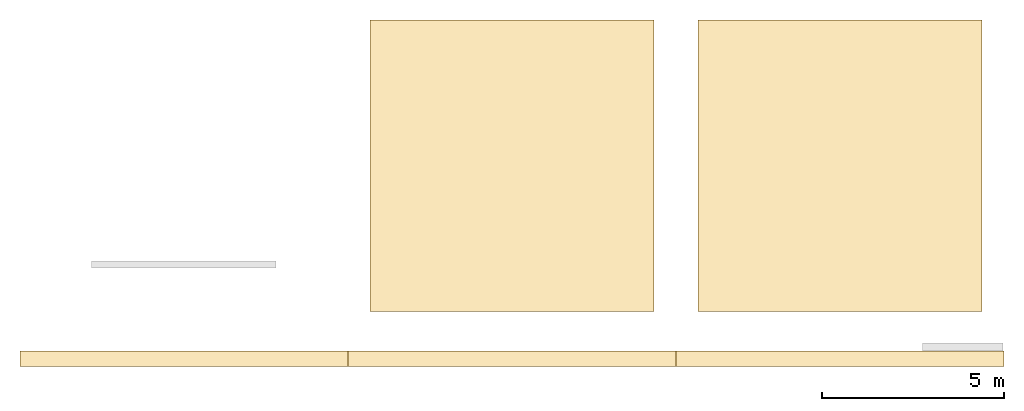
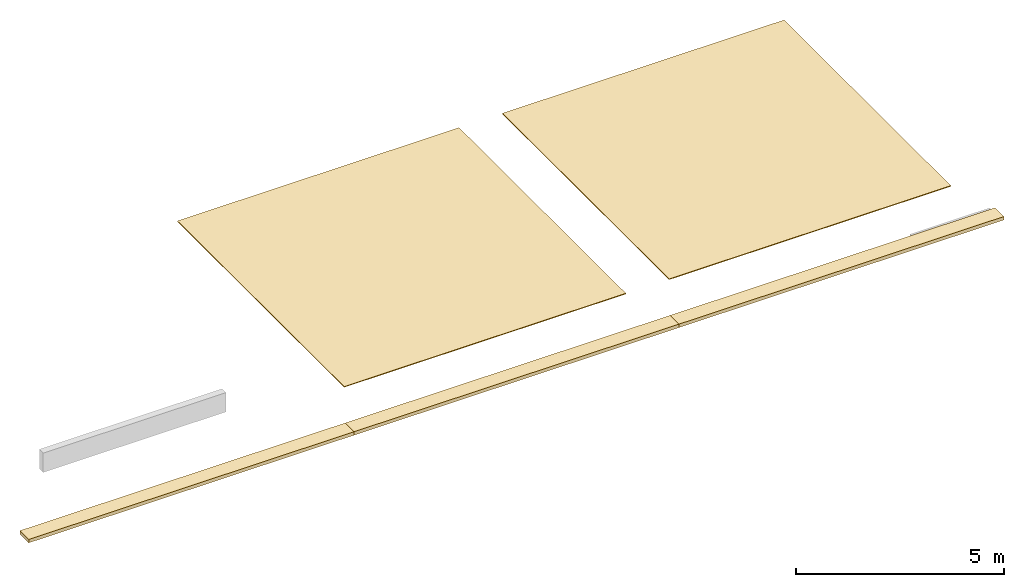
# One storey, part 2 of 2: 5 coverings.
"""IFC2X3 building model written with IfcOpenShell, lengths in millimetres."""

from ifc_helpers import new_model, entity, si_unit, converted_unit, derived_unit, direction, frame, frame_2d, origin_with_axes, place, context, subcontext, project, spatial, rectangle, extrude, faceted_brep, material, layer, layer_set, layer_usage, type_object, element, save


model = new_model("IFC2X3")

# Units and contexts
model_context = context("Model", 3, precision=0.01, world=frame((0.0, 4.29681676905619e-09, 0.0)), true_north=direction((4.01073788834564e-13, 1.0)))
plan_context = context("Plan", 3, precision=0.01, world=frame((0.0, 4.29681676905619e-09, 0.0)), true_north=direction((4.01073788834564e-13, 1.0)))
body_context = subcontext(model_context, "Body", "Model", "MODEL_VIEW")
ifc_project = project(units=[converted_unit("PLANEANGLEUNIT", "DEGREE", entity("IfcPositiveLengthMeasure", 0.0174532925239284), si_unit("PLANEANGLEUNIT", "RADIAN"), dimensions=[0, 0, 0, 0, 0, 0, 0]), si_unit("AREAUNIT", "SQUARE_METRE"), si_unit("LENGTHUNIT", "METRE", prefix="MILLI"), si_unit("MASSUNIT", "GRAM", prefix="KILO"), si_unit("POWERUNIT", "WATT"), si_unit("PRESSUREUNIT", "PASCAL", prefix="KILO"), si_unit("FORCEUNIT", "NEWTON", prefix="KILO"), si_unit("ELECTRICVOLTAGEUNIT", "VOLT"), si_unit("ELECTRICCURRENTUNIT", "AMPERE"), si_unit("THERMODYNAMICTEMPERATUREUNIT", "DEGREE_CELSIUS"), si_unit("TIMEUNIT", "SECOND"), si_unit("VOLUMEUNIT", "CUBIC_METRE"), derived_unit("LINEARVELOCITYUNIT", [(si_unit("LENGTHUNIT", "METRE"), 1), (si_unit("TIMEUNIT", "SECOND"), -1)]), derived_unit("VOLUMETRICFLOWRATEUNIT", [(si_unit("VOLUMEUNIT", "CUBIC_METRE"), 1), (si_unit("TIMEUNIT", "SECOND"), -1)]), derived_unit("THERMALTRANSMITTANCEUNIT", [(si_unit("POWERUNIT", "WATT"), 1), (si_unit("THERMODYNAMICTEMPERATUREUNIT", "KELVIN"), -1), (si_unit("AREAUNIT", "SQUARE_METRE"), -1)]), derived_unit("SOUNDPRESSUREUNIT", [(si_unit("PRESSUREUNIT", "PASCAL"), 1)])], contexts=[model_context, plan_context])

# Site, building, storey
site_placement = place(None, origin_with_axes())
site = spatial("IfcSite", under=ifc_project, at=site_placement, Name="ENGM", CompositionType="ELEMENT")
building_placement = place(site_placement, origin_with_axes())
building = spatial("IfcBuilding", under=site, at=building_placement, Name="TG", CompositionType="ELEMENT")
storey_placement = place(building_placement, frame((0.0, 0.0, 205200.0), z_axis=(0.0, 0.0, 1.0), x_axis=(1.0, 0.0, 0.0)))
storey = spatial("IfcBuildingStorey", under=building, at=storey_placement, Name="Nivå D + 1,2 m", CompositionType="ELEMENT", Elevation=205200.0)

# Coverings
covering_type_1 = type_object("IfcCoveringType", Name="Compound Ceiling:A255 - Eksisterende - akustisk direktmontert - 600 x 1200 mm", PredefinedType="CEILING")
covering_1_placement = place(storey_placement, origin_with_axes())
element("IfcCovering", 1, at=covering_1_placement, inside=storey, type_object=covering_type_1, Name="Compound Ceiling:A255 - Eksisterende - akustisk direktmontert - 600 x 1200 mm", ObjectType="Compound Ceiling:A255 - Eksisterende - akustisk direktmontert - 600 x 1200 mm", PredefinedType="CEILING", context=body_context, shape_type="Brep", body=[
    faceted_brep([(339399.999999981, 467499.999999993, 4565.00000000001), (339399.999999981, 467499.999999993, 4542.0), (339399.999999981, 459500.000000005, 4542.0), (339399.999999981, 459500.000000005, 4565.00000000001), (331599.999999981, 467499.999999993, 4542.0), (331599.999999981, 467499.999999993, 4565.00000000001), (331599.999999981, 459500.000000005, 4565.00000000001), (331599.999999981, 459500.000000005, 4542.0)], [[[0, 1, 2, 3]], [[4, 5, 6, 7]], [[7, 6, 3, 2]], [[1, 4, 7, 2]], [[5, 0, 3, 6]], [[5, 4, 1, 0]]], orient=[[False], [False], [False], [False], [False], [False]]),
])
covering_2_placement = place(storey_placement, origin_with_axes())
element("IfcCovering", 2, at=covering_2_placement, inside=storey, type_object=covering_type_1, Name="Compound Ceiling:A255 - Eksisterende - akustisk direktmontert - 600 x 1200 mm", ObjectType="Compound Ceiling:A255 - Eksisterende - akustisk direktmontert - 600 x 1200 mm", PredefinedType="CEILING", context=body_context, shape_type="Brep", body=[
    faceted_brep([(348399.999999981, 467499.999999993, 4565.00000000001), (348399.999999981, 467499.999999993, 4542.0), (348399.999999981, 459500.000000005, 4542.0), (348399.999999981, 459500.000000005, 4565.00000000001), (340599.999999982, 467499.999999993, 4542.0), (340599.999999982, 467499.999999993, 4565.00000000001), (340599.999999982, 459500.000000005, 4565.00000000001), (340599.999999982, 459500.000000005, 4542.0)], [[[0, 1, 2, 3]], [[4, 5, 6, 7]], [[7, 6, 3, 2]], [[1, 4, 7, 2]], [[5, 0, 3, 6]], [[5, 4, 1, 0]]], orient=[[False], [False], [False], [False], [False], [False]]),
])
ifc_material_1 = material(Name="_NSW Isolasjon")
ifc_layer_1 = layer(ifc_material_1, 98.0)
ifc_material_2 = material(Name="_NSW Aluminium")
ifc_layer_2 = layer(ifc_material_2, 2.0)
ifc_layer_set = layer_set([ifc_layer_1, ifc_layer_2], Name="Compound Ceiling:A255 - eksisterende utvendig båndtekking med isolasjon")
ifc_layer_usage_1 = layer_usage(ifc_layer_set, "AXIS3", "NEGATIVE", 100.0)
covering_type_2 = type_object("IfcCoveringType", Name="Compound Ceiling:A255 - eksisterende utvendig båndtekking med isolasjon", PredefinedType="CEILING")
covering_3_placement = place(storey_placement, origin_with_axes())
element("IfcCovering", 3, at=covering_3_placement, inside=storey, type_object=covering_type_2, material=ifc_layer_usage_1, Name="Compound Ceiling:A255 - eksisterende utvendig båndtekking med isolasjon", ObjectType="Compound Ceiling:A255 - eksisterende utvendig båndtekking med isolasjon", PredefinedType="CEILING", context=body_context, shape_type="SweptSolid", body=[
    extrude(rectangle(XDim=424.799999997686, YDim=9003.70294085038, at=frame_2d((3.46602746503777e-11, -3.45607986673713e-11), x_axis=(1.0, 0.0))), frame((326498.148529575, 458202.599999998, 4268.0), z_axis=(0.0, 0.0, 1.0), x_axis=(0.0, -1.0, 0.0)), (0.0, 0.0, 1.0), 100.000000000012),
])
ifc_layer_usage_2 = layer_usage(ifc_layer_set, "AXIS3", "NEGATIVE", 100.0)
covering_4_placement = place(storey_placement, origin_with_axes())
element("IfcCovering", 4, at=covering_4_placement, inside=storey, type_object=covering_type_2, material=ifc_layer_usage_2, Name="Compound Ceiling:A255 - eksisterende utvendig båndtekking med isolasjon", ObjectType="Compound Ceiling:A255 - eksisterende utvendig båndtekking med isolasjon", PredefinedType="CEILING", context=body_context, shape_type="SweptSolid", body=[
    extrude(rectangle(XDim=424.799999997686, YDim=9003.70294085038, at=frame_2d((3.46602746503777e-11, -3.45607986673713e-11), x_axis=(1.0, 0.0))), frame((335498.148529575, 458202.599999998, 4268.0), z_axis=(0.0, 0.0, 1.0), x_axis=(0.0, -1.0, 0.0)), (0.0, 0.0, 1.0), 100.000000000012),
])
ifc_layer_usage_3 = layer_usage(ifc_layer_set, "AXIS3", "NEGATIVE", 100.0)
covering_5_placement = place(storey_placement, origin_with_axes())
element("IfcCovering", 5, at=covering_5_placement, inside=storey, type_object=covering_type_2, material=ifc_layer_usage_3, Name="Compound Ceiling:A255 - eksisterende utvendig båndtekking med isolasjon", ObjectType="Compound Ceiling:A255 - eksisterende utvendig båndtekking med isolasjon", PredefinedType="CEILING", context=body_context, shape_type="SweptSolid", body=[
    extrude(rectangle(XDim=424.799999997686, YDim=9003.70294085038, at=frame_2d((3.46602746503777e-11, -3.45607986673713e-11), x_axis=(1.0, 0.0))), frame((344498.148529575, 458202.599999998, 4268.0), z_axis=(0.0, 0.0, 1.0), x_axis=(0.0, -1.0, 0.0)), (0.0, 0.0, 1.0), 100.000000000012),
])

save(model, "model.ifc")
